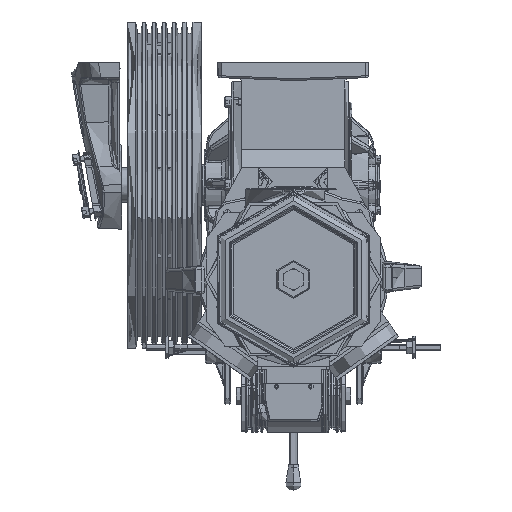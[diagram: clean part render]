
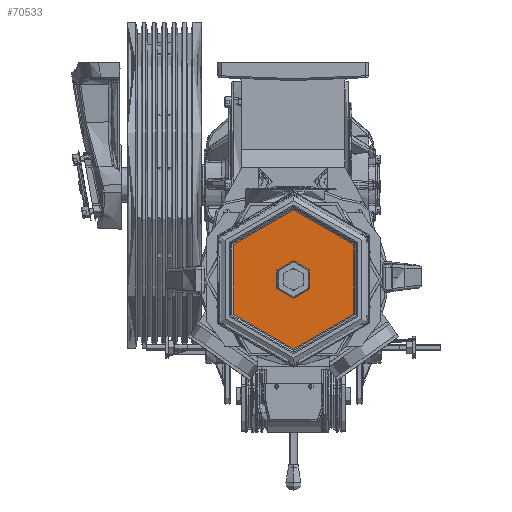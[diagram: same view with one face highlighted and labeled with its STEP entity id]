
A CAD part, front view. The second image highlights one B-rep face of the part: STEP entity #70533.
In plain terms, the highlighted planar face has unit normal (0, -1, 0).
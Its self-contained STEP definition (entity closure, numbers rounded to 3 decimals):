
#5235 = DIRECTION ( 'NONE',  ( 0., 0., -1. ) ) ;
#5469 = CARTESIAN_POINT ( 'NONE',  ( -232.108, -479.587, 1751.226 ) ) ;
#8694 = EDGE_CURVE ( 'NONE', #155502, #45647, #213227, .T. ) ;
#27845 = DIRECTION ( 'NONE',  ( 0., -1., 0. ) ) ;
#35957 = EDGE_CURVE ( 'NONE', #45647, #155502, #36755, .T. ) ;
#36755 = CIRCLE ( 'NONE', #184527, 30.156 ) ;
#45647 = VERTEX_POINT ( 'NONE', #135898 ) ;
#58729 = AXIS2_PLACEMENT_3D ( 'NONE', #194049, #100140, #259769 ) ;
#68160 = DIRECTION ( 'NONE',  ( 0., 0., -1. ) ) ;
#70533 = ADVANCED_FACE ( 'NONE', ( #191142, #103061 ), #214964, .T. ) ;
#84255 = CARTESIAN_POINT ( 'NONE',  ( -232.108, -479.587, 1751.226 ) ) ;
#98541 = CARTESIAN_POINT ( 'NONE',  ( -232.108, -479.587, 1781.382 ) ) ;
#100140 = DIRECTION ( 'NONE',  ( 0., -1., 0. ) ) ;
#100981 = CIRCLE ( 'NONE', #248704, 110.757 ) ;
#103061 = FACE_BOUND ( 'NONE', #133826, .T. ) ;
#114168 = EDGE_CURVE ( 'NONE', #249592, #241010, #100981, .T. ) ;
#117096 = DIRECTION ( 'NONE',  ( 0., -1., 0. ) ) ;
#133826 = EDGE_LOOP ( 'NONE', ( #228220, #152001 ) ) ;
#135898 = CARTESIAN_POINT ( 'NONE',  ( -232.108, -479.587, 1721.069 ) ) ;
#146994 = DIRECTION ( 'NONE',  ( 0., 0., -1. ) ) ;
#148476 = DIRECTION ( 'NONE',  ( 0., -1., 0. ) ) ;
#152001 = ORIENTED_EDGE ( 'NONE', *, *, #35957, .F. ) ;
#155502 = VERTEX_POINT ( 'NONE', #98541 ) ;
#173982 = CARTESIAN_POINT ( 'NONE',  ( -232.108, -479.587, 1861.983 ) ) ;
#178497 = DIRECTION ( 'NONE',  ( 0., 0., -1. ) ) ;
#184527 = AXIS2_PLACEMENT_3D ( 'NONE', #5469, #27845, #68160 ) ;
#191142 = FACE_OUTER_BOUND ( 'NONE', #205911, .T. ) ;
#192259 = CARTESIAN_POINT ( 'NONE',  ( -232.108, -479.587, 1640.468 ) ) ;
#194049 = CARTESIAN_POINT ( 'NONE',  ( -120.108, -479.587, 1751.226 ) ) ;
#197245 = ORIENTED_EDGE ( 'NONE', *, *, #114168, .T. ) ;
#200945 = CIRCLE ( 'NONE', #253592, 110.757 ) ;
#205911 = EDGE_LOOP ( 'NONE', ( #256852, #197245 ) ) ;
#207877 = AXIS2_PLACEMENT_3D ( 'NONE', #84255, #148476, #146994 ) ;
#213227 = CIRCLE ( 'NONE', #207877, 30.156 ) ;
#214964 = PLANE ( 'NONE',  #58729 ) ;
#228220 = ORIENTED_EDGE ( 'NONE', *, *, #8694, .F. ) ;
#230448 = CARTESIAN_POINT ( 'NONE',  ( -232.108, -479.587, 1751.226 ) ) ;
#241010 = VERTEX_POINT ( 'NONE', #192259 ) ;
#248704 = AXIS2_PLACEMENT_3D ( 'NONE', #230448, #117096, #5235 ) ;
#249592 = VERTEX_POINT ( 'NONE', #173982 ) ;
#253592 = AXIS2_PLACEMENT_3D ( 'NONE', #270982, #291957, #178497 ) ;
#256852 = ORIENTED_EDGE ( 'NONE', *, *, #284671, .T. ) ;
#259769 = DIRECTION ( 'NONE',  ( 0., 0., -1. ) ) ;
#270982 = CARTESIAN_POINT ( 'NONE',  ( -232.108, -479.587, 1751.226 ) ) ;
#284671 = EDGE_CURVE ( 'NONE', #241010, #249592, #200945, .T. ) ;
#291957 = DIRECTION ( 'NONE',  ( 0., -1., 0. ) ) ;
